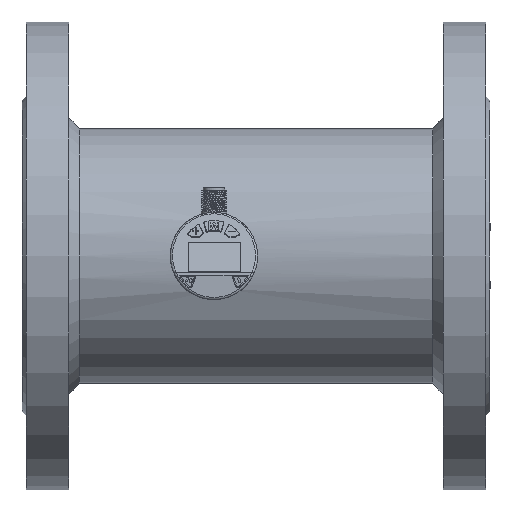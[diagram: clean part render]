
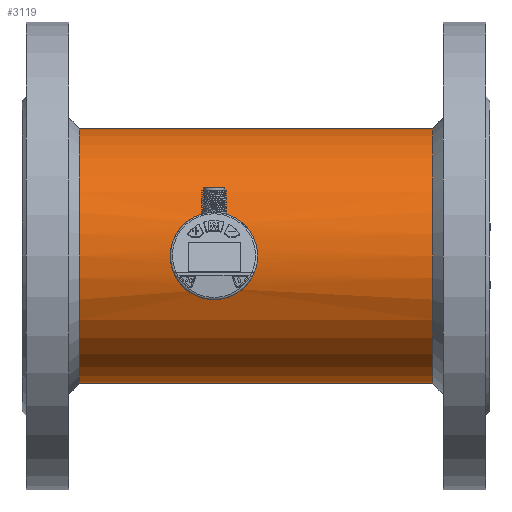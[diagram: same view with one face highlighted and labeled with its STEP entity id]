
A CAD part, left-side view. The second image highlights one B-rep face of the part: STEP entity #3119.
In plain terms, the highlighted cylindrical face has radius 60 mm (diameter 120 mm), a full revolution.
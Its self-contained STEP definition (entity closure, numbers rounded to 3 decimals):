
#2174=LINE('',#11476,#2548);
#2175=LINE('',#11489,#2549);
#2548=VECTOR('',#9473,1.);
#2549=VECTOR('',#9474,1.);
#2924=B_SPLINE_CURVE_WITH_KNOTS('',3,(#11498,#11499,#11500,#11501,#11502,
#11503,#11504,#11505,#11506,#11507),.UNSPECIFIED.,.F.,.F.,(4,2,2,2,4),(0.,
0.25,0.5,0.75,1.),.UNSPECIFIED.);
#2925=B_SPLINE_CURVE_WITH_KNOTS('',3,(#11508,#11509,#11510,#11511,#11512,
#11513,#11514,#11515,#11516,#11517),.UNSPECIFIED.,.F.,.F.,(4,2,2,2,4),(0.,
0.25,0.5,0.75,1.),.UNSPECIFIED.);
#3119=ADVANCED_FACE('',(#3754,#3755,#3756),#3565,.T.);
#3565=CYLINDRICAL_SURFACE('',#8597,60.);
#3754=FACE_BOUND('',#4035,.T.);
#3755=FACE_BOUND('',#4036,.T.);
#3756=FACE_BOUND('',#4037,.T.);
#4035=EDGE_LOOP('',(#4649));
#4036=EDGE_LOOP('',(#4650));
#4037=EDGE_LOOP('',(#4651,#4652,#4653,#4654));
#4649=ORIENTED_EDGE('',*,*,#7210,.T.);
#4650=ORIENTED_EDGE('',*,*,#7211,.T.);
#4651=ORIENTED_EDGE('',*,*,#7212,.T.);
#4652=ORIENTED_EDGE('',*,*,#7206,.F.);
#4653=ORIENTED_EDGE('',*,*,#7213,.T.);
#4654=ORIENTED_EDGE('',*,*,#7208,.F.);
#6557=VERTEX_POINT('',#11474);
#6558=VERTEX_POINT('',#11475);
#6559=VERTEX_POINT('',#11477);
#6560=VERTEX_POINT('',#11488);
#6562=VERTEX_POINT('',#11495);
#6563=VERTEX_POINT('',#11497);
#7206=EDGE_CURVE('',#6558,#6559,#2174,.T.);
#7208=EDGE_CURVE('',#6560,#6557,#2175,.T.);
#7210=EDGE_CURVE('',#6562,#6562,#8167,.T.);
#7211=EDGE_CURVE('',#6563,#6563,#8168,.T.);
#7212=EDGE_CURVE('',#6560,#6559,#2924,.T.);
#7213=EDGE_CURVE('',#6558,#6557,#2925,.T.);
#8167=CIRCLE('',#8595,60.);
#8168=CIRCLE('',#8596,60.);
#8595=AXIS2_PLACEMENT_3D('',#11494,#9481,#9482);
#8596=AXIS2_PLACEMENT_3D('',#11496,#9483,#9484);
#8597=AXIS2_PLACEMENT_3D('',#11518,#9485,#9486);
#9473=DIRECTION('',(0.,-1.,0.));
#9474=DIRECTION('',(0.,1.,0.));
#9481=DIRECTION('',(0.,1.,0.));
#9482=DIRECTION('',(1.,0.,0.));
#9483=DIRECTION('',(0.,-1.,0.));
#9484=DIRECTION('',(-1.,0.,0.));
#9485=DIRECTION('',(0.,-1.,0.));
#9486=DIRECTION('',(1.,0.,0.));
#11474=CARTESIAN_POINT('',(-58.,-79.944,15.362));
#11475=CARTESIAN_POINT('',(-58.,-79.943,-15.362));
#11476=CARTESIAN_POINT('',(-58.,-1000.,-15.362));
#11477=CARTESIAN_POINT('',(-58.,-87.75,-15.362));
#11488=CARTESIAN_POINT('',(-58.,-87.744,15.362));
#11489=CARTESIAN_POINT('',(-58.,-1000.,15.362));
#11494=CARTESIAN_POINT('',(0.,-186.6,0.));
#11495=CARTESIAN_POINT('',(60.,-186.6,0.));
#11496=CARTESIAN_POINT('',(0.,-20.6,0.));
#11497=CARTESIAN_POINT('',(-60.,-20.6,0.));
#11498=CARTESIAN_POINT('',(-58.,-87.744,15.362));
#11499=CARTESIAN_POINT('',(-58.241,-91.099,14.453));
#11500=CARTESIAN_POINT('',(-58.769,-93.995,12.415));
#11501=CARTESIAN_POINT('',(-59.672,-98.092,6.865));
#11502=CARTESIAN_POINT('',(-59.999,-99.191,3.476));
#11503=CARTESIAN_POINT('',(-60.001,-99.198,-3.453));
#11504=CARTESIAN_POINT('',(-59.671,-98.085,-6.865));
#11505=CARTESIAN_POINT('',(-58.775,-94.027,-12.382));
#11506=CARTESIAN_POINT('',(-58.242,-91.102,-14.448));
#11507=CARTESIAN_POINT('',(-58.,-87.75,-15.362));
#11508=CARTESIAN_POINT('',(-58.,-79.943,-15.362));
#11509=CARTESIAN_POINT('',(-58.241,-76.588,-14.453));
#11510=CARTESIAN_POINT('',(-58.769,-73.69,-12.416));
#11511=CARTESIAN_POINT('',(-59.673,-69.593,-6.863));
#11512=CARTESIAN_POINT('',(-60.,-68.49,-3.474));
#11513=CARTESIAN_POINT('',(-60.,-68.488,3.458));
#11514=CARTESIAN_POINT('',(-59.671,-69.599,6.871));
#11515=CARTESIAN_POINT('',(-58.774,-73.665,12.387));
#11516=CARTESIAN_POINT('',(-58.24,-76.589,14.455));
#11517=CARTESIAN_POINT('',(-58.,-79.944,15.362));
#11518=CARTESIAN_POINT('',(0.,-1000.,0.));
